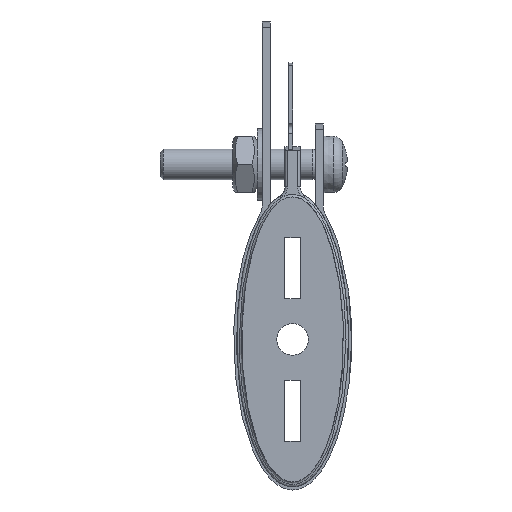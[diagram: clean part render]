
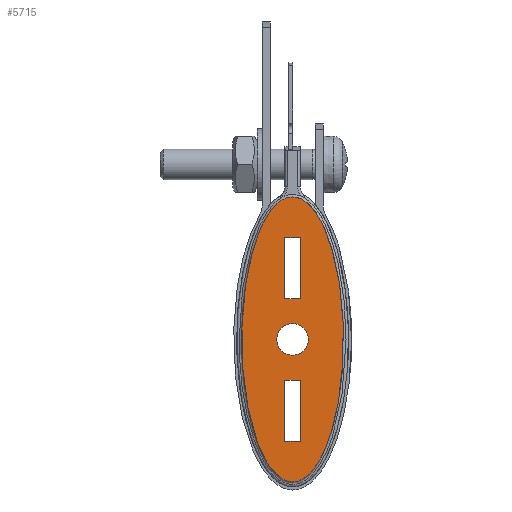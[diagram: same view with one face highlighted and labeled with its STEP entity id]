
A CAD part, front view. The second image highlights one B-rep face of the part: STEP entity #5715.
In plain terms, the highlighted planar face has unit normal (0, -1, 0).
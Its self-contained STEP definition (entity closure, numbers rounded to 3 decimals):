
#90=ELLIPSE($,#6019,14.,5.);
#647=LINE($,#11683,#1038);
#649=LINE($,#11688,#1040);
#650=LINE($,#11690,#1041);
#651=LINE($,#11692,#1042);
#652=LINE($,#11693,#1043);
#653=LINE($,#11695,#1044);
#654=LINE($,#11697,#1045);
#655=LINE($,#11698,#1046);
#1038=VECTOR($,#7659,6.);
#1040=VECTOR($,#7663,1.55);
#1041=VECTOR($,#7664,6.);
#1042=VECTOR($,#7665,1.55);
#1043=VECTOR($,#7666,6.);
#1044=VECTOR($,#7667,1.55);
#1045=VECTOR($,#7668,1.55);
#1046=VECTOR($,#7669,6.);
#1448=FACE_OUTER_BOUND($,#1895,.T.);
#1510=FACE_BOUND($,#1896,.T.);
#1511=FACE_BOUND($,#1897,.T.);
#1512=FACE_BOUND($,#1898,.T.);
#1895=EDGE_LOOP($,(#4726));
#1896=EDGE_LOOP($,(#4727));
#1897=EDGE_LOOP($,(#4728,#4729,#4730,#4731));
#1898=EDGE_LOOP($,(#4732,#4733,#4734,#4735));
#2062=CIRCLE($,#6243,1.55);
#2401=VERTEX_POINT($,#9316);
#2529=VERTEX_POINT($,#11674);
#2532=VERTEX_POINT($,#11680);
#2533=VERTEX_POINT($,#11682);
#2534=VERTEX_POINT($,#11686);
#2535=VERTEX_POINT($,#11687);
#2536=VERTEX_POINT($,#11689);
#2537=VERTEX_POINT($,#11691);
#2538=VERTEX_POINT($,#11694);
#2539=VERTEX_POINT($,#11696);
#2999=EDGE_CURVE($,#2401,#2401,#90,.T.);
#3272=EDGE_CURVE($,#2529,#2529,#2062,.T.);
#3275=EDGE_CURVE($,#2533,#2532,#647,.T.);
#3277=EDGE_CURVE($,#2534,#2535,#649,.T.);
#3278=EDGE_CURVE($,#2535,#2536,#650,.T.);
#3279=EDGE_CURVE($,#2536,#2537,#651,.T.);
#3280=EDGE_CURVE($,#2537,#2534,#652,.T.);
#3281=EDGE_CURVE($,#2538,#2533,#653,.T.);
#3282=EDGE_CURVE($,#2532,#2539,#654,.T.);
#3283=EDGE_CURVE($,#2539,#2538,#655,.T.);
#4726=ORIENTED_EDGE($,*,*,#2999,.T.);
#4727=ORIENTED_EDGE($,*,*,#3272,.T.);
#4728=ORIENTED_EDGE($,*,*,#3277,.T.);
#4729=ORIENTED_EDGE($,*,*,#3278,.T.);
#4730=ORIENTED_EDGE($,*,*,#3279,.T.);
#4731=ORIENTED_EDGE($,*,*,#3280,.T.);
#4732=ORIENTED_EDGE($,*,*,#3281,.T.);
#4733=ORIENTED_EDGE($,*,*,#3275,.T.);
#4734=ORIENTED_EDGE($,*,*,#3282,.T.);
#4735=ORIENTED_EDGE($,*,*,#3283,.T.);
#5047=PLANE($,#6245);
#5715=ADVANCED_FACE($,(#1448,#1510,#1511,#1512),#5047,.T.);
#6019=AXIS2_PLACEMENT_3D($,#9319,#7081,#7082);
#6243=AXIS2_PLACEMENT_3D($,#11675,#7653,#7654);
#6245=AXIS2_PLACEMENT_3D($,#11685,#7661,#7662);
#7081=DIRECTION('center_axis',(0.,-1.,0.));
#7082=DIRECTION('ref_axis',(0.,0.,
-1.));
#7653=DIRECTION('center_axis',(0.,1.,0.));
#7654=DIRECTION('ref_axis',(1.,0.,0.));
#7659=DIRECTION($,(0.,0.,1.));
#7661=DIRECTION('center_axis',(0.,-1.,0.));
#7662=DIRECTION('ref_axis',(0.,0.,-1.));
#7663=DIRECTION($,(1.,0.,0.));
#7664=DIRECTION($,(0.,0.,-1.));
#7665=DIRECTION($,(-1.,0.,0.));
#7666=DIRECTION($,(0.,0.,1.));
#7667=DIRECTION($,(-1.,0.,0.));
#7668=DIRECTION($,(1.,0.,0.));
#7669=DIRECTION($,(0.,0.,-1.));
#9316=CARTESIAN_POINT('',(0.,0.,14.));
#9319=CARTESIAN_POINT('Origin',(0.,0.,0.));
#11674=CARTESIAN_POINT('',(-1.55,0.,0.));
#11675=CARTESIAN_POINT('Origin',(0.,0.,0.));
#11680=CARTESIAN_POINT('',(-0.775,0.,10.));
#11682=CARTESIAN_POINT('',(-0.775,0.,4.));
#11683=CARTESIAN_POINT($,(-0.775,0.,5.));
#11685=CARTESIAN_POINT('Origin',(0.,0.,0.));
#11686=CARTESIAN_POINT('',(-0.775,0.,-4.));
#11687=CARTESIAN_POINT('',(0.775,0.,-4.));
#11688=CARTESIAN_POINT($,(0.,0.,-4.));
#11689=CARTESIAN_POINT('',(0.775,0.,-10.));
#11690=CARTESIAN_POINT($,(0.775,0.,-5.));
#11691=CARTESIAN_POINT('',(-0.775,0.,-10.));
#11692=CARTESIAN_POINT($,(-0.388,0.,-10.));
#11693=CARTESIAN_POINT($,(-0.775,0.,-2.));
#11694=CARTESIAN_POINT('',(0.775,0.,4.));
#11695=CARTESIAN_POINT($,(0.,0.,4.));
#11696=CARTESIAN_POINT('',(0.775,0.,10.));
#11697=CARTESIAN_POINT($,(0.388,0.,10.));
#11698=CARTESIAN_POINT($,(0.775,0.,2.));
